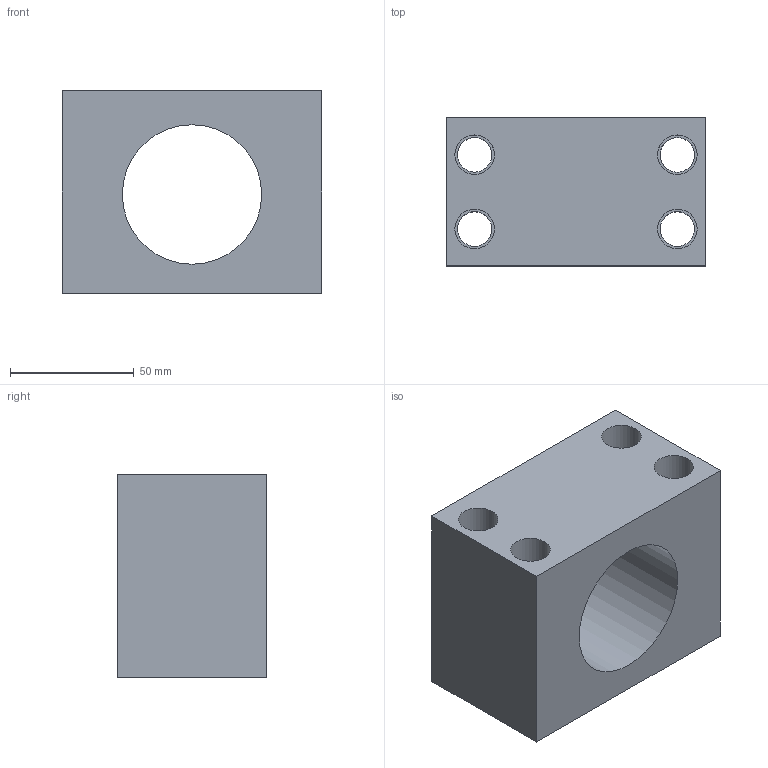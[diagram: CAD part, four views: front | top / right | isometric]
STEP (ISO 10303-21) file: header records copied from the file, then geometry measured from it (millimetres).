
FILE_DESCRIPTION(/* description */ (''),/* implementation_level */ '2;1');
FILE_NAME(/* name */ 'MGS32-2.stp',/* time_stamp */ '2017-01-04T15:51:07+08:00',/* author */ (''),/* organization */ (''),/* preprocessor_version */ 'ST-DEVELOPER v15',/* originating_system */ 'SIEMENS PLM Software NX 8.5',/* authorisation */ '');
FILE_SCHEMA (('AUTOMOTIVE_DESIGN { 1 0 10303 214 3 1 1 1 }'));
Length unit declared in the file: millimetre
Products named in the file (1): Admi05BC77158b6u
Bounding box: 105 x 60 x 82 mm (x, y, z)
Volume: 298648.8 mm3; surface area: 61863.6 mm2
Topology: 1 solids, 1 shells, 51 faces, 107 edges, 72 vertices
Faces by surface type: cylinder 25, plane 20, cone 6
Full cylindrical faces by diameter (mm): 5 x6, 6 x6, 14 x4, 16 x4, 20 x4, 56.4 x1
Entity records: 1191 total; most frequent: DIRECTION 218, CARTESIAN_POINT 179, ORIENTED_EDGE 124, FACE_BOUND 110, EDGE_LOOP 106, AXIS2_PLACEMENT_3D 103, VERTEX_POINT 64, EDGE_CURVE 62
